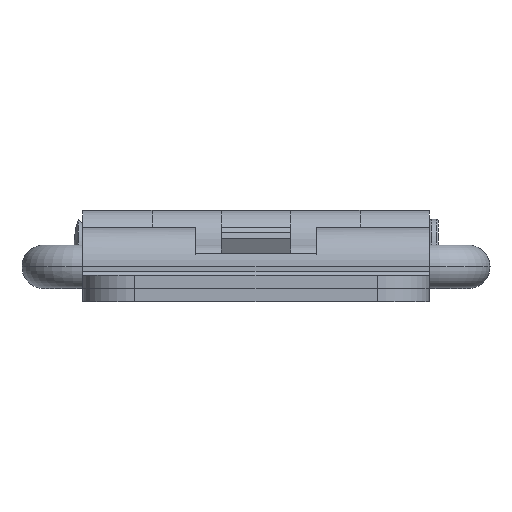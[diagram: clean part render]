
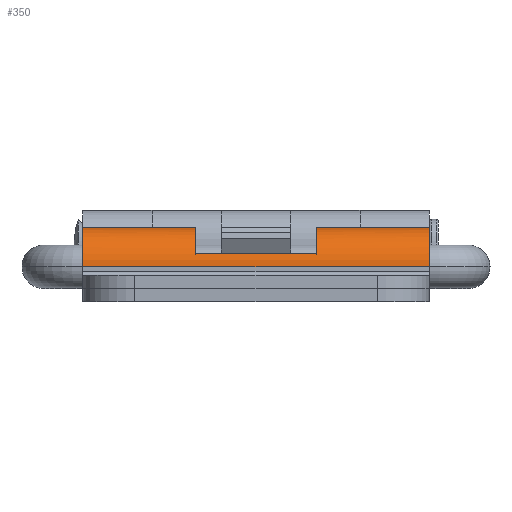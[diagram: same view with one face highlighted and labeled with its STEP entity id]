
A CAD part, front view. The second image highlights one B-rep face of the part: STEP entity #350.
In plain terms, the highlighted cylindrical face has radius 4.5 mm (diameter 9 mm), a partial arc.
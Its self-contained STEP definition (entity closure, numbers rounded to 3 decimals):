
#350=ADVANCED_FACE('',(#721),#722,.T.);
#721=FACE_OUTER_BOUND('',#1188,.T.);
#722=CYLINDRICAL_SURFACE('',#1189,4.5);
#1188=EDGE_LOOP('',(#2475,#2476,#2477,#2478,#2479,#2480,#2481,#2482));
#1189=AXIS2_PLACEMENT_3D('',#2483,#2484,#2485);
#2475=ORIENTED_EDGE('',*,*,#3620,.T.);
#2476=ORIENTED_EDGE('',*,*,#3618,.T.);
#2477=ORIENTED_EDGE('',*,*,#3621,.T.);
#2478=ORIENTED_EDGE('',*,*,#3622,.T.);
#2479=ORIENTED_EDGE('',*,*,#3623,.T.);
#2480=ORIENTED_EDGE('',*,*,#3624,.F.);
#2481=ORIENTED_EDGE('',*,*,#3608,.F.);
#2482=ORIENTED_EDGE('',*,*,#3625,.T.);
#2483=CARTESIAN_POINT('',(20.0,-50.0,-2.5));
#2484=DIRECTION('',(1.0,0.0,0.0));
#2485=DIRECTION('',(0.0,0.,1.0));
#3608=EDGE_CURVE('',#4469,#4471,#4472,.T.);
#3618=EDGE_CURVE('',#4488,#4486,#4489,.T.);
#3620=EDGE_CURVE('',#4491,#4488,#4492,.T.);
#3621=EDGE_CURVE('',#4486,#4493,#4494,.T.);
#3622=EDGE_CURVE('',#4493,#4495,#4496,.T.);
#3623=EDGE_CURVE('',#4495,#4497,#4498,.T.);
#3624=EDGE_CURVE('',#4471,#4497,#4499,.T.);
#3625=EDGE_CURVE('',#4469,#4491,#4500,.T.);
#4469=VERTEX_POINT('',#5662);
#4471=VERTEX_POINT('',#5665);
#4472=CIRCLE('',#5666,4.5);
#4486=VERTEX_POINT('',#5687);
#4488=VERTEX_POINT('',#5690);
#4489=LINE('',#5691,#5692);
#4491=VERTEX_POINT('',#5695);
#4492=CIRCLE('',#5696,4.5);
#4493=VERTEX_POINT('',#5697);
#4494=CIRCLE('',#5698,4.5);
#4495=VERTEX_POINT('',#5699);
#4496=LINE('',#5700,#5701);
#4497=VERTEX_POINT('',#5702);
#4498=CIRCLE('',#5703,4.5);
#4499=LINE('',#5704,#5705);
#4500=LINE('',#5706,#5707);
#5662=CARTESIAN_POINT('',(20.0,-50.0,2.0));
#5665=CARTESIAN_POINT('',(20.0,-54.5,-2.5));
#5666=AXIS2_PLACEMENT_3D('',#6869,#6870,#6871);
#5687=CARTESIAN_POINT('',(-7.0,-54.24,-0.993));
#5690=CARTESIAN_POINT('',(7.0,-54.24,-0.993));
#5691=CARTESIAN_POINT('',(0.0,-54.24,-0.993));
#5692=VECTOR('',#6883,1.0);
#5695=CARTESIAN_POINT('',(7.0,-50.0,2.0));
#5696=AXIS2_PLACEMENT_3D('',#6885,#6886,#6887);
#5697=CARTESIAN_POINT('',(-7.0,-50.0,2.0));
#5698=AXIS2_PLACEMENT_3D('',#6888,#6889,#6890);
#5699=CARTESIAN_POINT('',(-20.0,-50.0,2.0));
#5700=CARTESIAN_POINT('',(20.0,-50.0,2.0));
#5701=VECTOR('',#6891,1.0);
#5702=CARTESIAN_POINT('',(-20.0,-54.5,-2.5));
#5703=AXIS2_PLACEMENT_3D('',#6892,#6893,#6894);
#5704=CARTESIAN_POINT('',(20.0,-54.5,-2.5));
#5705=VECTOR('',#6895,1.0);
#5706=CARTESIAN_POINT('',(20.0,-50.0,2.0));
#5707=VECTOR('',#6896,1.0);
#6869=CARTESIAN_POINT('',(20.0,-50.0,-2.5));
#6870=DIRECTION('',(1.0,0.0,0.0));
#6871=DIRECTION('',(0.0,0.,1.0));
#6883=DIRECTION('',(-1.0,0.0,0.0));
#6885=CARTESIAN_POINT('',(7.0,-50.0,-2.5));
#6886=DIRECTION('',(1.0,0.0,0.0));
#6887=DIRECTION('',(0.0,0.,1.0));
#6888=CARTESIAN_POINT('',(-7.0,-50.0,-2.5));
#6889=DIRECTION('',(-1.0,0.0,0.0));
#6890=DIRECTION('',(0.0,0.,1.0));
#6891=DIRECTION('',(-1.0,0.0,0.0));
#6892=CARTESIAN_POINT('',(-20.0,-50.0,-2.5));
#6893=DIRECTION('',(1.0,0.0,0.0));
#6894=DIRECTION('',(0.0,0.,1.0));
#6895=DIRECTION('',(-1.0,0.0,0.0));
#6896=DIRECTION('',(-1.0,0.0,0.0));
